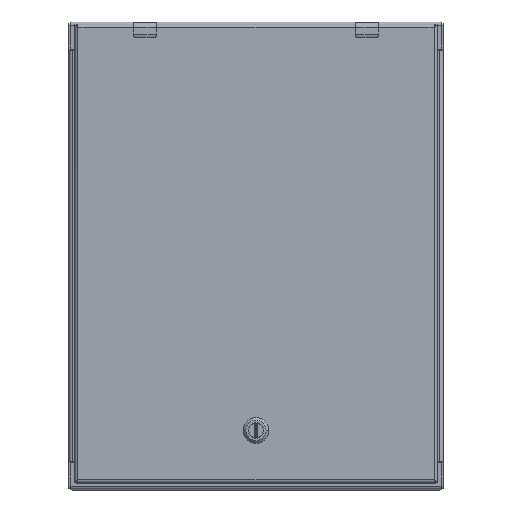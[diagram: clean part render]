
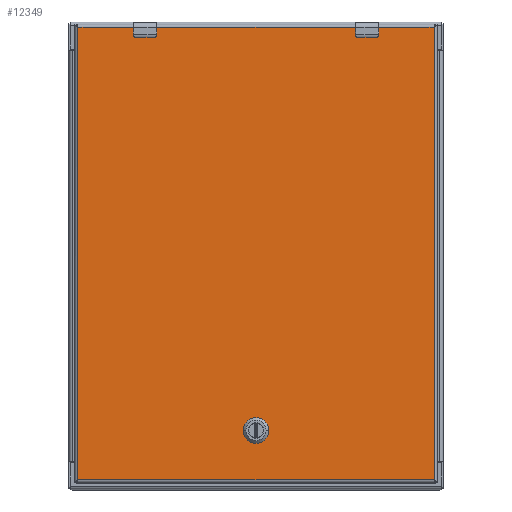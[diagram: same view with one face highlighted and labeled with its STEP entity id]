
A CAD part, top view. The second image highlights one B-rep face of the part: STEP entity #12349.
In plain terms, the highlighted planar face has unit normal (0, 0, 1).
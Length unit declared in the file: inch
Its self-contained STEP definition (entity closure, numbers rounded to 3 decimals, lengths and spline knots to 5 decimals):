
#9584=CARTESIAN_POINT('',(7.5625,0.,0.));
#9585=DIRECTION('',(0.,0.,1.));
#9586=DIRECTION('',(-0.448,0.894,0.));
#9587=AXIS2_PLACEMENT_3D('',#9584,#9585,#9586);
#9592=DIRECTION('',(0.,-1.,0.));
#9593=VECTOR('',#9592,0.39715);
#9594=CARTESIAN_POINT('',(7.1665,0.19858,0.));
#9595=LINE('',#9594,#9593);
#9599=CARTESIAN_POINT('',(7.5625,0.,0.));
#9600=DIRECTION('',(0.,0.,1.));
#9601=DIRECTION('',(-0.894,-0.448,0.));
#9602=AXIS2_PLACEMENT_3D('',#9599,#9600,#9601);
#9607=DIRECTION('',(1.,0.,0.));
#9608=VECTOR('',#9607,0.39715);
#9609=CARTESIAN_POINT('',(7.36392,-0.396,0.));
#9610=LINE('',#9609,#9608);
#9614=CARTESIAN_POINT('',(7.5625,0.,0.));
#9615=DIRECTION('',(0.,0.,1.));
#9616=DIRECTION('',(0.448,-0.894,0.));
#9617=AXIS2_PLACEMENT_3D('',#9614,#9615,#9616);
#9622=DIRECTION('',(0.,1.,0.));
#9623=VECTOR('',#9622,0.39715);
#9624=CARTESIAN_POINT('',(7.9585,-0.19858,0.));
#9625=LINE('',#9624,#9623);
#9629=CARTESIAN_POINT('',(7.5625,0.,0.));
#9630=DIRECTION('',(0.,0.,1.));
#9631=DIRECTION('',(0.894,0.448,0.));
#9632=AXIS2_PLACEMENT_3D('',#9629,#9630,#9631);
#9637=DIRECTION('',(-1.,0.,0.));
#9638=VECTOR('',#9637,0.39715);
#9639=CARTESIAN_POINT('',(7.76108,0.396,0.));
#9640=LINE('',#9639,#9638);
#9644=DIRECTION('',(1.,0.,0.));
#9645=VECTOR('',#9644,0.34892);
#9646=CARTESIAN_POINT('',(-9.6775,-5.095,0.));
#9647=LINE('',#9646,#9645);
#9651=DIRECTION('',(0.,1.,0.));
#9652=VECTOR('',#9651,0.63);
#9653=CARTESIAN_POINT('',(-9.29858,-5.065,0.));
#9654=LINE('',#9653,#9652);
#9658=DIRECTION('',(1.,0.,0.));
#9659=VECTOR('',#9658,0.34892);
#9660=CARTESIAN_POINT('',(-9.6775,-4.405,0.));
#9661=LINE('',#9660,#9659);
#9665=DIRECTION('',(1.,0.,0.));
#9666=VECTOR('',#9665,0.34892);
#9667=CARTESIAN_POINT('',(-9.6775,4.405,0.));
#9668=LINE('',#9667,#9666);
#9672=DIRECTION('',(0.,1.,0.));
#9673=VECTOR('',#9672,0.63);
#9674=CARTESIAN_POINT('',(-9.29858,4.435,0.));
#9675=LINE('',#9674,#9673);
#9679=DIRECTION('',(1.,0.,0.));
#9680=VECTOR('',#9679,0.34892);
#9681=CARTESIAN_POINT('',(-9.6775,5.095,0.));
#9682=LINE('',#9681,#9680);
#10137=CARTESIAN_POINT('',(-9.32858,-4.435,0.));
#10138=DIRECTION('',(0.,0.,-1.));
#10139=DIRECTION('',(0.,1.,0.));
#10140=AXIS2_PLACEMENT_3D('',#10137,#10138,#10139);
#10167=CARTESIAN_POINT('',(-9.32858,-5.065,0.));
#10168=DIRECTION('',(0.,0.,-1.));
#10169=DIRECTION('',(1.,0.,0.));
#10170=AXIS2_PLACEMENT_3D('',#10167,#10168,#10169);
#10220=DIRECTION('',(0.,1.,0.));
#10221=VECTOR('',#10220,8.81);
#10222=CARTESIAN_POINT('',(-9.6775,-4.405,0.));
#10223=LINE('',#10222,#10221);
#10248=DIRECTION('',(0.,1.,0.));
#10249=VECTOR('',#10248,2.52);
#10250=CARTESIAN_POINT('',(-9.6775,5.095,0.));
#10251=LINE('',#10250,#10249);
#10306=DIRECTION('',(0.,1.,0.));
#10307=VECTOR('',#10306,2.52);
#10308=CARTESIAN_POINT('',(-9.6775,-7.615,0.));
#10309=LINE('',#10308,#10307);
#10969=CARTESIAN_POINT('',(-9.32858,4.435,0.));
#10970=DIRECTION('',(0.,0.,-1.));
#10971=DIRECTION('',(1.,0.,0.));
#10972=AXIS2_PLACEMENT_3D('',#10969,#10970,#10971);
#10999=CARTESIAN_POINT('',(-9.32858,5.065,0.));
#11000=DIRECTION('',(0.,0.,-1.));
#11001=DIRECTION('',(0.,1.,0.));
#11002=AXIS2_PLACEMENT_3D('',#10999,#11000,#11001);
#11658=DIRECTION('',(-1.,0.,0.));
#11659=VECTOR('',#11658,19.355);
#11660=CARTESIAN_POINT('',(9.6775,-7.615,0.));
#11661=LINE('',#11660,#11659);
#11712=DIRECTION('',(0.,-1.,0.));
#11713=VECTOR('',#11712,15.23);
#11714=CARTESIAN_POINT('',(9.6775,7.615,0.));
#11715=LINE('',#11714,#11713);
#11856=DIRECTION('',(1.,0.,0.));
#11857=VECTOR('',#11856,19.355);
#11858=CARTESIAN_POINT('',(-9.6775,7.615,0.));
#11859=LINE('',#11858,#11857);
#11924=CARTESIAN_POINT('',(9.6775,7.615,0.));
#11925=CARTESIAN_POINT('',(9.6775,-7.615,0.));
#11926=VERTEX_POINT('',#11924);
#11927=VERTEX_POINT('',#11925);
#12012=CARTESIAN_POINT('',(7.36392,0.396,0.));
#12013=CARTESIAN_POINT('',(7.1665,0.19858,0.));
#12014=VERTEX_POINT('',#12012);
#12015=VERTEX_POINT('',#12013);
#12016=CARTESIAN_POINT('',(7.1665,-0.19858,0.));
#12017=VERTEX_POINT('',#12016);
#12018=CARTESIAN_POINT('',(7.36392,-0.396,0.));
#12019=VERTEX_POINT('',#12018);
#12020=CARTESIAN_POINT('',(7.76108,-0.396,0.));
#12021=VERTEX_POINT('',#12020);
#12022=CARTESIAN_POINT('',(7.9585,-0.19858,0.));
#12023=VERTEX_POINT('',#12022);
#12024=CARTESIAN_POINT('',(7.9585,0.19858,0.));
#12025=VERTEX_POINT('',#12024);
#12026=CARTESIAN_POINT('',(7.76108,0.396,0.));
#12027=VERTEX_POINT('',#12026);
#12117=CARTESIAN_POINT('',(-9.6775,7.615,0.));
#12119=VERTEX_POINT('',#12117);
#12124=CARTESIAN_POINT('',(-9.6775,-7.615,0.));
#12126=VERTEX_POINT('',#12124);
#12196=CARTESIAN_POINT('',(-9.6775,4.405,0.));
#12198=VERTEX_POINT('',#12196);
#12200=CARTESIAN_POINT('',(-9.6775,5.095,0.));
#12202=VERTEX_POINT('',#12200);
#12212=CARTESIAN_POINT('',(-9.6775,-5.095,0.));
#12214=VERTEX_POINT('',#12212);
#12216=CARTESIAN_POINT('',(-9.6775,-4.405,0.));
#12218=VERTEX_POINT('',#12216);
#12228=CARTESIAN_POINT('',(-9.32858,5.095,0.));
#12230=VERTEX_POINT('',#12228);
#12232=CARTESIAN_POINT('',(-9.29858,5.065,0.));
#12234=VERTEX_POINT('',#12232);
#12236=CARTESIAN_POINT('',(-9.29858,4.435,0.));
#12238=VERTEX_POINT('',#12236);
#12240=CARTESIAN_POINT('',(-9.32858,4.405,0.));
#12242=VERTEX_POINT('',#12240);
#12260=CARTESIAN_POINT('',(-9.32858,-4.405,0.));
#12262=VERTEX_POINT('',#12260);
#12264=CARTESIAN_POINT('',(-9.29858,-4.435,0.));
#12266=VERTEX_POINT('',#12264);
#12268=CARTESIAN_POINT('',(-9.29858,-5.065,0.));
#12270=VERTEX_POINT('',#12268);
#12272=CARTESIAN_POINT('',(-9.32858,-5.095,0.));
#12274=VERTEX_POINT('',#12272);
#12292=CARTESIAN_POINT('',(0.,0.,0.));
#12293=DIRECTION('',(0.,0.,-1.));
#12294=DIRECTION('',(1.,0.,0.));
#12295=AXIS2_PLACEMENT_3D('',#12292,#12293,#12294);
#12296=PLANE('',#12295);
#12298=ORIENTED_EDGE('',*,*,#12297,.T.);
#12300=ORIENTED_EDGE('',*,*,#12299,.T.);
#12302=ORIENTED_EDGE('',*,*,#12301,.T.);
#12304=ORIENTED_EDGE('',*,*,#12303,.F.);
#12306=ORIENTED_EDGE('',*,*,#12305,.T.);
#12308=ORIENTED_EDGE('',*,*,#12307,.F.);
#12310=ORIENTED_EDGE('',*,*,#12309,.F.);
#12312=ORIENTED_EDGE('',*,*,#12311,.T.);
#12314=ORIENTED_EDGE('',*,*,#12313,.T.);
#12316=ORIENTED_EDGE('',*,*,#12315,.F.);
#12318=ORIENTED_EDGE('',*,*,#12317,.T.);
#12320=ORIENTED_EDGE('',*,*,#12319,.F.);
#12322=ORIENTED_EDGE('',*,*,#12321,.F.);
#12324=ORIENTED_EDGE('',*,*,#12323,.T.);
#12326=ORIENTED_EDGE('',*,*,#12325,.T.);
#12328=ORIENTED_EDGE('',*,*,#12327,.T.);
#12329=EDGE_LOOP('',(#12298,#12300,#12302,#12304,#12306,#12308,#12310,#12312,
#12314,#12316,#12318,#12320,#12322,#12324,#12326,#12328));
#12330=FACE_OUTER_BOUND('',#12329,.F.);
#12332=ORIENTED_EDGE('',*,*,#12331,.T.);
#12334=ORIENTED_EDGE('',*,*,#12333,.T.);
#12336=ORIENTED_EDGE('',*,*,#12335,.T.);
#12338=ORIENTED_EDGE('',*,*,#12337,.T.);
#12340=ORIENTED_EDGE('',*,*,#12339,.T.);
#12342=ORIENTED_EDGE('',*,*,#12341,.T.);
#12344=ORIENTED_EDGE('',*,*,#12343,.T.);
#12346=ORIENTED_EDGE('',*,*,#12345,.T.);
#12347=EDGE_LOOP('',(#12332,#12334,#12336,#12338,#12340,#12342,#12344,#12346));
#12348=FACE_BOUND('',#12347,.F.);
#9588=CIRCLE('',#9587,0.443);
#9603=CIRCLE('',#9602,0.443);
#9618=CIRCLE('',#9617,0.443);
#9633=CIRCLE('',#9632,0.443);
#10141=CIRCLE('',#10140,0.03);
#10171=CIRCLE('',#10170,0.03);
#10973=CIRCLE('',#10972,0.03);
#11003=CIRCLE('',#11002,0.03);
#12297=EDGE_CURVE('',#11927,#12126,#11661,.T.);
#12299=EDGE_CURVE('',#12126,#12214,#10309,.T.);
#12301=EDGE_CURVE('',#12214,#12274,#9647,.T.);
#12303=EDGE_CURVE('',#12270,#12274,#10171,.T.);
#12305=EDGE_CURVE('',#12270,#12266,#9654,.T.);
#12307=EDGE_CURVE('',#12262,#12266,#10141,.T.);
#12309=EDGE_CURVE('',#12218,#12262,#9661,.T.);
#12311=EDGE_CURVE('',#12218,#12198,#10223,.T.);
#12313=EDGE_CURVE('',#12198,#12242,#9668,.T.);
#12315=EDGE_CURVE('',#12238,#12242,#10973,.T.);
#12317=EDGE_CURVE('',#12238,#12234,#9675,.T.);
#12319=EDGE_CURVE('',#12230,#12234,#11003,.T.);
#12321=EDGE_CURVE('',#12202,#12230,#9682,.T.);
#12323=EDGE_CURVE('',#12202,#12119,#10251,.T.);
#12325=EDGE_CURVE('',#12119,#11926,#11859,.T.);
#12327=EDGE_CURVE('',#11926,#11927,#11715,.T.);
#12331=EDGE_CURVE('',#12014,#12015,#9588,.T.);
#12333=EDGE_CURVE('',#12015,#12017,#9595,.T.);
#12335=EDGE_CURVE('',#12017,#12019,#9603,.T.);
#12337=EDGE_CURVE('',#12019,#12021,#9610,.T.);
#12339=EDGE_CURVE('',#12021,#12023,#9618,.T.);
#12341=EDGE_CURVE('',#12023,#12025,#9625,.T.);
#12343=EDGE_CURVE('',#12025,#12027,#9633,.T.);
#12345=EDGE_CURVE('',#12027,#12014,#9640,.T.);
#12349=ADVANCED_FACE('',(#12330,#12348),#12296,.F.);
